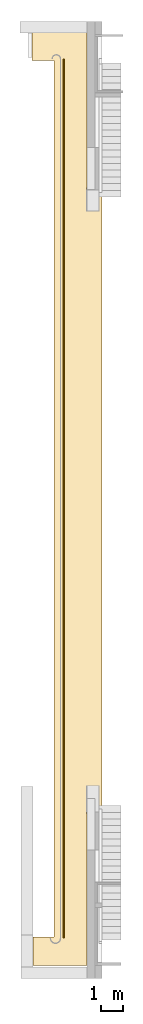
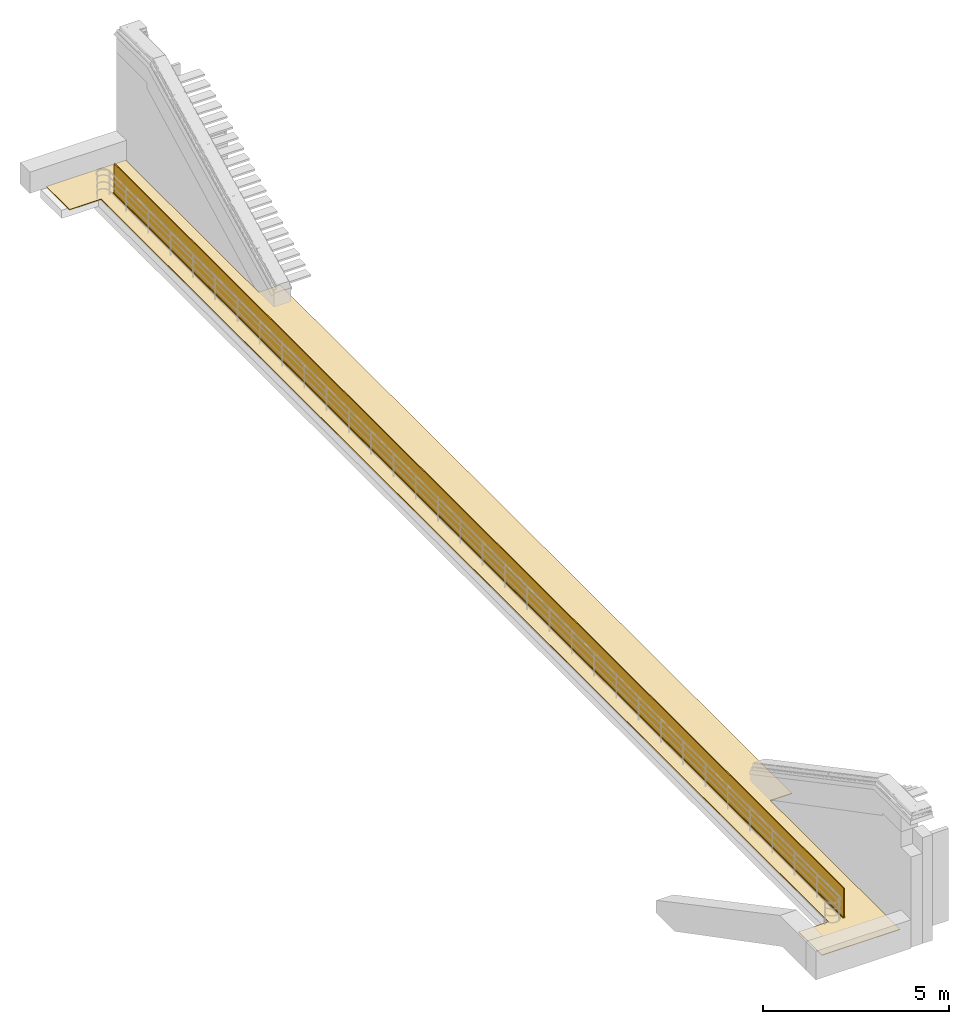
# One storey, part 5 of 5: 1 covering, 1 railing.
"""IFC2X3 building model written with IfcOpenShell, lengths in millimetres."""

from ifc_helpers import new_model, entity, si_unit, converted_unit, derived_unit, direction, frame, origin, origin_2d_with_axis, place, context, subcontext, project, spatial, polyline, rectangle, outline, extrude, material, material_list, layer, layer_set, layer_usage, type_object, element, save


model = new_model("IFC2X3")

# Units and contexts
model_context = context("Model", 3, precision=0.01, world=origin(), true_north=direction((6.123031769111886e-17, 1.0)))
body_context = subcontext(model_context, "Body", "Model", "MODEL_VIEW")
ifc_project = project(units=[si_unit("LENGTHUNIT", "METRE", prefix="MILLI"), si_unit("AREAUNIT", "SQUARE_METRE"), si_unit("VOLUMEUNIT", "CUBIC_METRE"), converted_unit("PLANEANGLEUNIT", "DEGREE", entity("IfcPlaneAngleMeasure", 0.017453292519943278), si_unit("PLANEANGLEUNIT", "RADIAN"), dimensions=[0, 0, 0, 0, 0, 0, 0]), si_unit("MASSUNIT", "GRAM", prefix="KILO"), derived_unit("MASSDENSITYUNIT", [(si_unit("MASSUNIT", "GRAM", prefix="KILO"), 1), (si_unit("LENGTHUNIT", "METRE"), -3)]), derived_unit("IONCONCENTRATIONUNIT", [(si_unit("MASSUNIT", "GRAM", prefix="KILO"), 1), (si_unit("LENGTHUNIT", "METRE"), -3)]), derived_unit("MOMENTOFINERTIAUNIT", [(si_unit("LENGTHUNIT", "METRE"), 4)]), si_unit("TIMEUNIT", "SECOND"), si_unit("FREQUENCYUNIT", "HERTZ"), si_unit("THERMODYNAMICTEMPERATUREUNIT", "DEGREE_CELSIUS"), derived_unit("THERMALTRANSMITTANCEUNIT", [(si_unit("MASSUNIT", "GRAM", prefix="KILO"), 1), (si_unit("THERMODYNAMICTEMPERATUREUNIT", "KELVIN"), -1), (si_unit("TIMEUNIT", "SECOND"), -3)]), derived_unit("THERMALCONDUCTANCEUNIT", [(si_unit("MASSUNIT", "GRAM", prefix="KILO"), 1), (si_unit("THERMODYNAMICTEMPERATUREUNIT", "KELVIN"), -1), (si_unit("TIMEUNIT", "SECOND"), -3), (si_unit("LENGTHUNIT", "METRE"), 1)]), derived_unit("VOLUMETRICFLOWRATEUNIT", [(si_unit("LENGTHUNIT", "METRE", prefix="DECI"), 3), (si_unit("TIMEUNIT", "SECOND"), -1)]), derived_unit("MASSFLOWRATEUNIT", [(si_unit("MASSUNIT", "GRAM", prefix="KILO"), 1), (si_unit("TIMEUNIT", "SECOND"), -1)]), derived_unit("ROTATIONALFREQUENCYUNIT", [(si_unit("TIMEUNIT", "SECOND"), -1)]), si_unit("ELECTRICCURRENTUNIT", "AMPERE"), si_unit("ELECTRICVOLTAGEUNIT", "VOLT"), si_unit("POWERUNIT", "WATT"), si_unit("FORCEUNIT", "NEWTON", prefix="KILO"), si_unit("ILLUMINANCEUNIT", "LUX"), si_unit("LUMINOUSFLUXUNIT", "LUMEN"), si_unit("LUMINOUSINTENSITYUNIT", "CANDELA"), si_unit("ENERGYUNIT", "JOULE"), derived_unit("USERDEFINED", [(si_unit("MASSUNIT", "GRAM", prefix="KILO"), -1), (si_unit("LENGTHUNIT", "METRE"), -2), (si_unit("TIMEUNIT", "SECOND"), 3), (si_unit("LUMINOUSFLUXUNIT", "LUMEN"), 1)]), derived_unit("USERDEFINED", [(si_unit("MASSUNIT", "GRAM", prefix="KILO"), 1), (si_unit("TIMEUNIT", "SECOND"), -3), (si_unit("LENGTHUNIT", "METRE"), 3), (si_unit("ELECTRICCURRENTUNIT", "AMPERE"), -2)]), derived_unit("SOUNDPOWERUNIT", [(si_unit("MASSUNIT", "GRAM", prefix="KILO"), 1), (si_unit("TIMEUNIT", "SECOND"), -3), (si_unit("LENGTHUNIT", "METRE"), 2)]), derived_unit("SOUNDPRESSUREUNIT", [(si_unit("MASSUNIT", "GRAM", prefix="KILO"), 1), (si_unit("LENGTHUNIT", "METRE"), -1), (si_unit("TIMEUNIT", "SECOND"), -2)]), derived_unit("LINEARVELOCITYUNIT", [(si_unit("LENGTHUNIT", "METRE"), 1), (si_unit("TIMEUNIT", "SECOND"), -1)]), si_unit("PRESSUREUNIT", "PASCAL"), derived_unit("USERDEFINED", [(si_unit("MASSUNIT", "GRAM", prefix="KILO"), 1), (si_unit("LENGTHUNIT", "METRE"), -2), (si_unit("TIMEUNIT", "SECOND"), -2)]), derived_unit("LINEARFORCEUNIT", [(si_unit("MASSUNIT", "GRAM", prefix="KILO"), 1), (si_unit("TIMEUNIT", "SECOND"), -2)]), derived_unit("PLANARFORCEUNIT", [(si_unit("MASSUNIT", "GRAM", prefix="KILO"), 1), (si_unit("LENGTHUNIT", "METRE"), -1), (si_unit("TIMEUNIT", "SECOND"), -2)]), derived_unit("SPECIFICHEATCAPACITYUNIT", [(si_unit("THERMODYNAMICTEMPERATUREUNIT", "KELVIN"), -1), (si_unit("LENGTHUNIT", "METRE"), 2), (si_unit("TIMEUNIT", "SECOND"), -2)]), derived_unit("HEATFLUXDENSITYUNIT", [(si_unit("MASSUNIT", "GRAM", prefix="KILO"), 1), (si_unit("TIMEUNIT", "SECOND"), -3)]), derived_unit("HEATINGVALUEUNIT", [(si_unit("LENGTHUNIT", "METRE"), 2), (si_unit("TIMEUNIT", "SECOND"), -2)]), derived_unit("VAPORPERMEABILITYUNIT", [(si_unit("LENGTHUNIT", "METRE"), -1), (si_unit("TIMEUNIT", "SECOND"), 1)]), derived_unit("DYNAMICVISCOSITYUNIT", [(si_unit("MASSUNIT", "GRAM", prefix="KILO"), 1), (si_unit("TIMEUNIT", "SECOND"), -1), (si_unit("LENGTHUNIT", "METRE"), -1)]), derived_unit("THERMALEXPANSIONCOEFFICIENTUNIT", [(si_unit("THERMODYNAMICTEMPERATUREUNIT", "KELVIN"), -1)]), derived_unit("MODULUSOFELASTICITYUNIT", [(si_unit("MASSUNIT", "GRAM", prefix="KILO"), 1), (si_unit("LENGTHUNIT", "METRE"), -1), (si_unit("TIMEUNIT", "SECOND"), -2)]), derived_unit("ISOTHERMALMOISTURECAPACITYUNIT", [(si_unit("MASSUNIT", "GRAM", prefix="KILO"), -1), (si_unit("LENGTHUNIT", "METRE"), 3)]), derived_unit("MOISTUREDIFFUSIVITYUNIT", [(si_unit("TIMEUNIT", "SECOND"), -1), (si_unit("LENGTHUNIT", "METRE"), 2)]), derived_unit("MASSPERLENGTHUNIT", [(si_unit("MASSUNIT", "GRAM", prefix="KILO"), 1), (si_unit("LENGTHUNIT", "METRE"), -1)]), derived_unit("THERMALRESISTANCEUNIT", [(si_unit("MASSUNIT", "GRAM", prefix="KILO"), -1), (si_unit("TIMEUNIT", "SECOND"), 3), (si_unit("THERMODYNAMICTEMPERATUREUNIT", "KELVIN"), 1)]), derived_unit("ACCELERATIONUNIT", [(si_unit("LENGTHUNIT", "METRE"), 1), (si_unit("TIMEUNIT", "SECOND"), -2)]), derived_unit("ANGULARVELOCITYUNIT", [(si_unit("TIMEUNIT", "SECOND"), -1), (si_unit("PLANEANGLEUNIT", "RADIAN"), 1)]), derived_unit("LINEARSTIFFNESSUNIT", [(si_unit("MASSUNIT", "GRAM", prefix="KILO"), 1), (si_unit("TIMEUNIT", "SECOND"), -2)]), derived_unit("WARPINGCONSTANTUNIT", [(si_unit("LENGTHUNIT", "METRE"), 6)]), derived_unit("LINEARMOMENTUNIT", [(si_unit("MASSUNIT", "GRAM", prefix="KILO"), 1), (si_unit("LENGTHUNIT", "METRE"), 1), (si_unit("TIMEUNIT", "SECOND"), -2)]), derived_unit("TORQUEUNIT", [(si_unit("MASSUNIT", "GRAM", prefix="KILO"), 1), (si_unit("LENGTHUNIT", "METRE"), 2), (si_unit("TIMEUNIT", "SECOND"), -2)])], contexts=[model_context])

# Site, building, storey
site_placement = place(None, origin())
site = spatial("IfcSite", under=ifc_project, at=site_placement, Name="Default", CompositionType="ELEMENT")
building_placement = place(site_placement, origin())
building = spatial("IfcBuilding", under=site, at=building_placement, Name="Eesti Rahvusraamatukogu hoone renoveerimise projekteerimistööd", CompositionType="ELEMENT")
storey_placement = place(building_placement, frame((0.0, 0.0, 11550.000000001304)))
storey = spatial("IfcBuildingStorey", under=building, at=storey_placement, Name="4. korrus", CompositionType="ELEMENT", Elevation=11550.000000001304)

# Covering
ifc_material_1 = material(Name="EST. Betoonplaat hele")
ifc_layer = layer(ifc_material_1, 20.0)
ifc_layer_set = layer_set([ifc_layer], Name="Basic Roof:TV-01 plaat 2 (hele)")
ifc_layer_usage = layer_usage(ifc_layer_set, "AXIS3", "NEGATIVE", 0.0)
covering_type = type_object("IfcCoveringType", Name="Basic Roof:TV-01 plaat 2 (hele)", PredefinedType="NOTDEFINED")
covering_placement = place(storey_placement, frame((-34750.0, 6590.0, 220.0)))
element("IfcCovering", 1, at=covering_placement, inside=storey, type_object=covering_type, material=ifc_layer_usage, Name="Basic Roof:TV-01 plaat 2 (hele)", ObjectType="Basic Roof:TV-01 plaat 2 (hele)", PredefinedType="NOTDEFINED", context=body_context, shape_type="SweptSolid", body=[
    extrude(outline(polyline([(-20879.417438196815, -1516.6969281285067), (-19616.330796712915, -1516.6969281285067), (-19616.330796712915, -536.6969281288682), (19553.000549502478, -536.6969281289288), (19553.000549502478, -1476.6969281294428), (20820.58256180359, -1476.6969281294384), (20820.58256180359, 953.303071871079), (13839.582561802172, 953.303071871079), (13839.582561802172, 1623.4846406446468), (-13717.417438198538, 1623.4846406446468), (-13717.417438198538, 953.3030718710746), (-20879.417438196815, 953.3030718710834), (-20879.417438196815, -1516.6969281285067)])), frame((1516.6969281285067, 20820.58256180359, 0.0), z_axis=(0.0, 0.0, 1.0), x_axis=(0.0, -1.0, 0.0)), (0.0, 0.0, 1.0), 19.999999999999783),
])

# Railing
ifc_material_2 = material(Name="EST. Klaas. 1x. Default")
ifc_material_3 = material(Name="EST. Metall. Alumiinium. Värvitud. RAL8022")
ifc_material_list = material_list([ifc_material_2, ifc_material_3])
railing_type = type_object("IfcRailingType", Name="Railing:KP-02 - Klaaspiire, 1000mm, c/c 4m", PredefinedType="NOTDEFINED")
railing_placement = place(storey_placement, frame((-33355.73246047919, 7807.00000000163, 130.0)))
element("IfcRailing", 2, at=railing_placement, inside=storey, type_object=railing_type, material=ifc_material_list, Name="Railing:KP-02 - Klaaspiire, 1000mm, c/c 4m", ObjectType="Railing:KP-02 - Klaaspiire, 1000mm, c/c 4m", PredefinedType="NOTDEFINED", context=body_context, shape_type="SweptSolid", body=[
    extrude(rectangle(XDim=39289.99999999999, YDim=23.999999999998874, at=origin_2d_with_axis()), frame((35.0, 19645.0, 130.0), z_axis=(0.0, 0.0, 1.0), x_axis=(0.0, 1.0, 0.0)), (0.0, 0.0, 1.0), 956.0000000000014),
    extrude(rectangle(XDim=39289.99999999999, YDim=70.00000000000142, at=origin_2d_with_axis()), frame((35.0, 19645.0, 0.0), z_axis=(0.0, 0.0, 1.0), x_axis=(0.0, 1.0, 0.0)), (0.0, 0.0, 1.0), 130.00000000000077),
])

save(model, "model.ifc")
